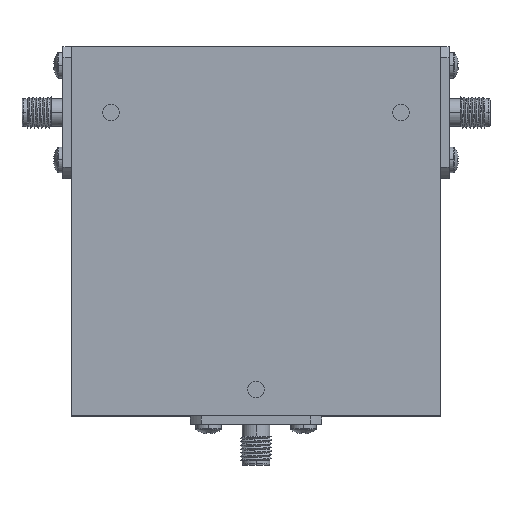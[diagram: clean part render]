
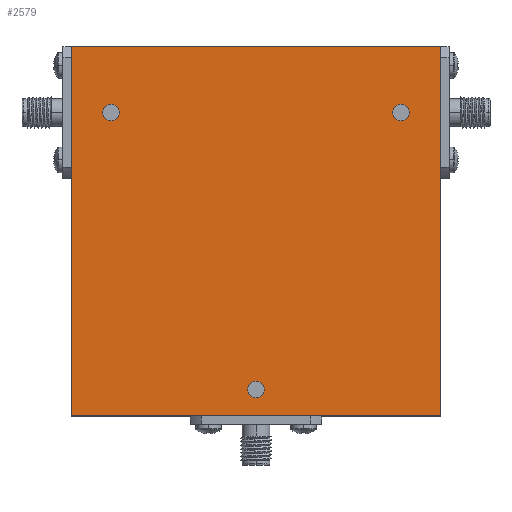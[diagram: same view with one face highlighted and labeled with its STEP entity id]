
A CAD part, top view. The second image highlights one B-rep face of the part: STEP entity #2579.
In plain terms, the highlighted planar face has unit normal (0, 0, 1).
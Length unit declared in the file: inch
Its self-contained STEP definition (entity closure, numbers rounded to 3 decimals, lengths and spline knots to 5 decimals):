
#7 = CARTESIAN_POINT ( 'NONE',  ( 0., -1.2, 0.5 ) ) ;
#18 = DIRECTION ( 'NONE',  ( 0., 0., 1. ) ) ;
#35 = DIRECTION ( 'NONE',  ( 1., 0., 0. ) ) ;
#85 = CARTESIAN_POINT ( 'NONE',  ( 1.1, 0.9, 0.5 ) ) ;
#116 = ORIENTED_EDGE ( 'NONE', *, *, #3112, .F. ) ;
#143 = DIRECTION ( 'NONE',  ( 0., -1., 0. ) ) ;
#186 = DIRECTION ( 'NONE',  ( 0., 0., 1. ) ) ;
#239 = VECTOR ( 'NONE', #1199, 39.37008 ) ;
#259 = VERTEX_POINT ( 'NONE', #3791 ) ;
#292 = ORIENTED_EDGE ( 'NONE', *, *, #3034, .T. ) ;
#296 = ORIENTED_EDGE ( 'NONE', *, *, #3779, .T. ) ;
#322 = DIRECTION ( 'NONE',  ( -1., 0., 0. ) ) ;
#354 = CARTESIAN_POINT ( 'NONE',  ( 1.1625, 0.9, 0.5 ) ) ;
#356 = VERTEX_POINT ( 'NONE', #354 ) ;
#378 = CARTESIAN_POINT ( 'NONE',  ( 1.1, 0.9, 0.5 ) ) ;
#398 = EDGE_LOOP ( 'NONE', ( #296, #3099, #970, #292 ) ) ;
#426 = DIRECTION ( 'NONE',  ( 0., 1., 0. ) ) ;
#431 = CARTESIAN_POINT ( 'NONE',  ( 1.4, 1.4, 0.5 ) ) ;
#441 = CARTESIAN_POINT ( 'NONE',  ( 0., 0., 0.5 ) ) ;
#496 = CARTESIAN_POINT ( 'NONE',  ( -1.4, 1.4, 0.5 ) ) ;
#514 = VECTOR ( 'NONE', #426, 39.37008 ) ;
#604 = DIRECTION ( 'NONE',  ( 1., 0., 0. ) ) ;
#649 = VERTEX_POINT ( 'NONE', #431 ) ;
#703 = LINE ( 'NONE', #2930, #2160 ) ;
#747 = DIRECTION ( 'NONE',  ( 1., 0., 0. ) ) ;
#836 = DIRECTION ( 'NONE',  ( 1., 0., 0. ) ) ;
#838 = CIRCLE ( 'NONE', #1240, 0.0625 ) ;
#845 = FACE_OUTER_BOUND ( 'NONE', #398, .T. ) ;
#858 = CARTESIAN_POINT ( 'NONE',  ( -1.0375, 0.9, 0.5 ) ) ;
#859 = EDGE_CURVE ( 'NONE', #3186, #1885, #3459, .T. ) ;
#919 = ORIENTED_EDGE ( 'NONE', *, *, #3153, .F. ) ;
#935 = CIRCLE ( 'NONE', #1963, 0.0625 ) ;
#936 = CARTESIAN_POINT ( 'NONE',  ( 0., -1.2, 0.5 ) ) ;
#970 = ORIENTED_EDGE ( 'NONE', *, *, #859, .T. ) ;
#1072 = CARTESIAN_POINT ( 'NONE',  ( -1.4, -1.4, 0.5 ) ) ;
#1106 = CARTESIAN_POINT ( 'NONE',  ( -1.1, 0.9, 0.5 ) ) ;
#1112 = CARTESIAN_POINT ( 'NONE',  ( -0.0625, -1.2, 0.5 ) ) ;
#1114 = CARTESIAN_POINT ( 'NONE',  ( -1.4, 1.4, 0.5 ) ) ;
#1119 = FACE_BOUND ( 'NONE', #2819, .T. ) ;
#1199 = DIRECTION ( 'NONE',  ( 1., 0., 0. ) ) ;
#1223 = EDGE_CURVE ( 'NONE', #356, #2052, #3156, .T. ) ;
#1231 = DIRECTION ( 'NONE',  ( 0., 0., 1. ) ) ;
#1240 = AXIS2_PLACEMENT_3D ( 'NONE', #378, #1231, #2157 ) ;
#1352 = DIRECTION ( 'NONE',  ( 0., 0., 1. ) ) ;
#1353 = EDGE_LOOP ( 'NONE', ( #3019, #2148 ) ) ;
#1600 = LINE ( 'NONE', #2376, #239 ) ;
#1728 = CARTESIAN_POINT ( 'NONE',  ( 1.4, -1.4, 0.5 ) ) ;
#1767 = DIRECTION ( 'NONE',  ( 0., 0., 1. ) ) ;
#1783 = DIRECTION ( 'NONE',  ( 1., 0., 0. ) ) ;
#1885 = VERTEX_POINT ( 'NONE', #1072 ) ;
#1948 = CARTESIAN_POINT ( 'NONE',  ( 1.0375, 0.9, 0.5 ) ) ;
#1962 = LINE ( 'NONE', #3032, #514 ) ;
#1963 = AXIS2_PLACEMENT_3D ( 'NONE', #936, #18, #35 ) ;
#2027 = FACE_BOUND ( 'NONE', #2602, .T. ) ;
#2051 = DIRECTION ( 'NONE',  ( 0., 0., 1. ) ) ;
#2052 = VERTEX_POINT ( 'NONE', #1948 ) ;
#2111 = EDGE_CURVE ( 'NONE', #2736, #259, #2712, .T. ) ;
#2148 = ORIENTED_EDGE ( 'NONE', *, *, #3183, .F. ) ;
#2157 = DIRECTION ( 'NONE',  ( 1., 0., 0. ) ) ;
#2160 = VECTOR ( 'NONE', #322, 39.37008 ) ;
#2183 = VERTEX_POINT ( 'NONE', #1728 ) ;
#2229 = DIRECTION ( 'NONE',  ( 1., 0., 0. ) ) ;
#2253 = EDGE_CURVE ( 'NONE', #649, #3186, #703, .T. ) ;
#2376 = CARTESIAN_POINT ( 'NONE',  ( -1.4, -1.4, 0.5 ) ) ;
#2507 = VERTEX_POINT ( 'NONE', #3356 ) ;
#2579 = ADVANCED_FACE ( 'NONE', ( #1119, #2027, #3604, #845 ), #3057, .T. ) ;
#2602 = EDGE_LOOP ( 'NONE', ( #116, #919 ) ) ;
#2624 = AXIS2_PLACEMENT_3D ( 'NONE', #441, #186, #2229 ) ;
#2689 = VECTOR ( 'NONE', #143, 39.37008 ) ;
#2712 = CIRCLE ( 'NONE', #3410, 0.0625 ) ;
#2736 = VERTEX_POINT ( 'NONE', #858 ) ;
#2805 = AXIS2_PLACEMENT_3D ( 'NONE', #3118, #1352, #747 ) ;
#2809 = ORIENTED_EDGE ( 'NONE', *, *, #3477, .F. ) ;
#2819 = EDGE_LOOP ( 'NONE', ( #3103, #2809 ) ) ;
#2830 = CIRCLE ( 'NONE', #3677, 0.0625 ) ;
#2864 = VERTEX_POINT ( 'NONE', #1112 ) ;
#2930 = CARTESIAN_POINT ( 'NONE',  ( -1.4, 1.4, 0.5 ) ) ;
#3019 = ORIENTED_EDGE ( 'NONE', *, *, #2111, .F. ) ;
#3032 = CARTESIAN_POINT ( 'NONE',  ( 1.4, 1.4, 0.5 ) ) ;
#3034 = EDGE_CURVE ( 'NONE', #1885, #2183, #1600, .T. ) ;
#3057 = PLANE ( 'NONE',  #2624 ) ;
#3099 = ORIENTED_EDGE ( 'NONE', *, *, #2253, .T. ) ;
#3103 = ORIENTED_EDGE ( 'NONE', *, *, #1223, .F. ) ;
#3112 = EDGE_CURVE ( 'NONE', #2507, #2864, #935, .T. ) ;
#3118 = CARTESIAN_POINT ( 'NONE',  ( -1.1, 0.9, 0.5 ) ) ;
#3153 = EDGE_CURVE ( 'NONE', #2864, #2507, #2830, .T. ) ;
#3156 = CIRCLE ( 'NONE', #3504, 0.0625 ) ;
#3165 = DIRECTION ( 'NONE',  ( 0., 0., 1. ) ) ;
#3183 = EDGE_CURVE ( 'NONE', #259, #2736, #3389, .T. ) ;
#3186 = VERTEX_POINT ( 'NONE', #496 ) ;
#3356 = CARTESIAN_POINT ( 'NONE',  ( 0.0625, -1.2, 0.5 ) ) ;
#3389 = CIRCLE ( 'NONE', #2805, 0.0625 ) ;
#3410 = AXIS2_PLACEMENT_3D ( 'NONE', #1106, #3165, #836 ) ;
#3459 = LINE ( 'NONE', #1114, #2689 ) ;
#3477 = EDGE_CURVE ( 'NONE', #2052, #356, #838, .T. ) ;
#3504 = AXIS2_PLACEMENT_3D ( 'NONE', #85, #1767, #1783 ) ;
#3604 = FACE_BOUND ( 'NONE', #1353, .T. ) ;
#3677 = AXIS2_PLACEMENT_3D ( 'NONE', #7, #2051, #604 ) ;
#3779 = EDGE_CURVE ( 'NONE', #2183, #649, #1962, .T. ) ;
#3791 = CARTESIAN_POINT ( 'NONE',  ( -1.1625, 0.9, 0.5 ) ) ;
